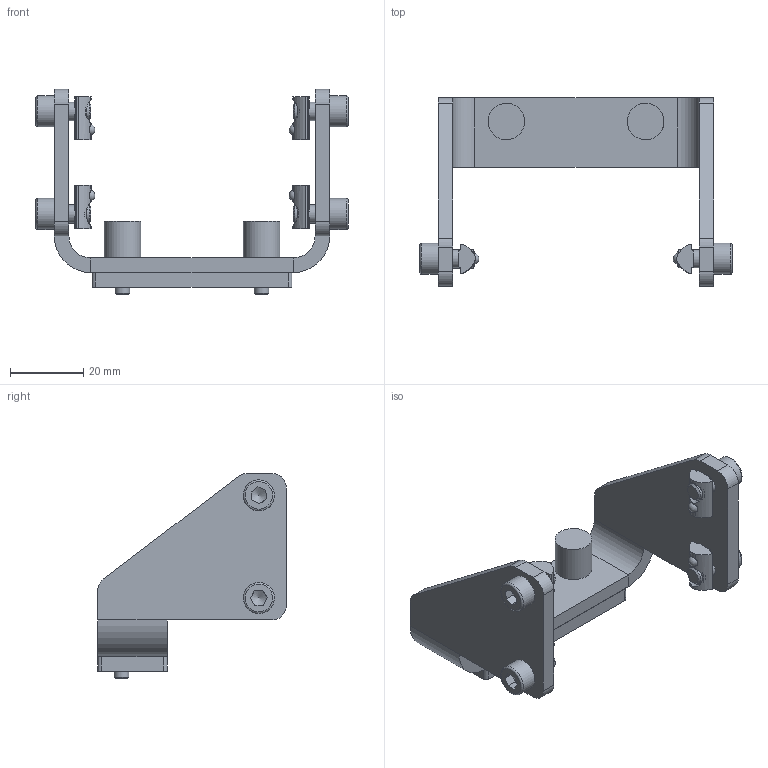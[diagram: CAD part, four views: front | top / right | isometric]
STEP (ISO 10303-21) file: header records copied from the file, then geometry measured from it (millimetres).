
FILE_DESCRIPTION(/* description */ ('External Block Assembly'),/* implementation_level */ '2;1');
FILE_NAME(/* name */ 'D:\InventorWorkspace2017\CAD\Projekte_EDEM\HLR\Zubehörteile\0232.036.stp',/* time_stamp */ '2019-02-13T11:38:44+01:00',/* author */ ('544672'),/* organization */ (''),/* preprocessor_version */ 'ST-DEVELOPER v16.5',/* originating_system */ 'Autodesk Inventor 2017',/* authorisation */ '');
FILE_SCHEMA (('AUTOMOTIVE_DESIGN { 1 0 10303 214 3 1 1 }'));
Length unit declared in the file: millimetre
Products named in the file (7): 0232.036; 0231.025; 0231.025_1; 0231.025_2; 0231.920; 0231.921; 135-721029
Assembly tree (13 placements, depth 3):
  0232.036
    0231.025
      0231.025_1
      0231.025_2
    0231.920  x2
    0231.921  x4
    135-721029  x4
Bounding box: 85.2 x 51.5 x 56 mm (x, y, z)
Volume: 25821.4 mm3; surface area: 17895 mm2
Topology: 12 solids, 12 shells, 232 faces, 618 edges, 400 vertices
Faces by surface type: plane 106, cylinder 76, bspline 16, cone 14, sphere 12, torus 8
Full cylindrical faces by diameter (mm): 3.242 x2, 4 x2, 4.3 x2, 5 x4, 5.3 x4, 8.5 x4, 10 x2
Entity records: 4133 total; most frequent: CARTESIAN_POINT 1545, DIRECTION 510, ORIENTED_EDGE 460, EDGE_CURVE 230, AXIS2_PLACEMENT_3D 196, VERTEX_POINT 157, EDGE_LOOP 137, LINE 118
